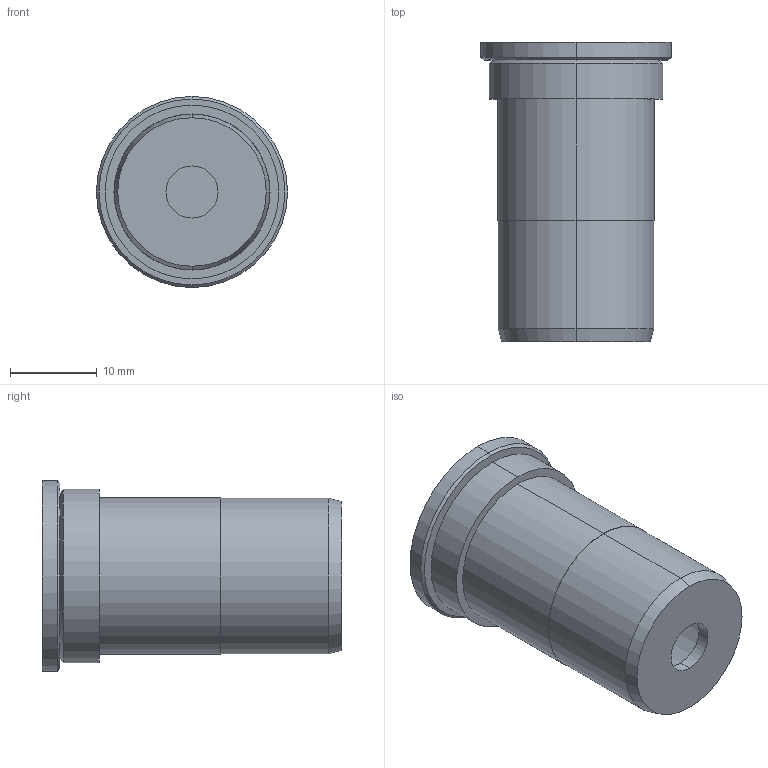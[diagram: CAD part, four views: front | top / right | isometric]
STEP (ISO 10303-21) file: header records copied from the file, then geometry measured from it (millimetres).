
FILE_DESCRIPTION (( 'STEP AP203' ), '1' );
FILE_NAME ('(Inclatec) QC022XS-06.STEP', '2016-06-01T11:28:16', ( '' ), ( '' ), 'SwSTEP 2.0', 'SolidWorks 2016', '' );
FILE_SCHEMA (( 'CONFIG_CONTROL_DESIGN' ));
Length unit declared in the file: millimetre
Products named in the file (1): (Inclatec) QC022XS-06
Bounding box: 22 x 34.5 x 22 mm (x, y, z)
Volume: 3786.5 mm3; surface area: 6112.6 mm2
Topology: 7 solids, 7 shells, 99 faces, 253 edges, 158 vertices
Faces by surface type: cylinder 40, cone 33, plane 12, sphere 10, torus 4
Entity records: 3364 total; most frequent: CARTESIAN_POINT 1034, DIRECTION 491, ORIENTED_EDGE 448, EDGE_CURVE 224, AXIS2_PLACEMENT_3D 212, VERTEX_POINT 143, EDGE_LOOP 115, CIRCLE 112
